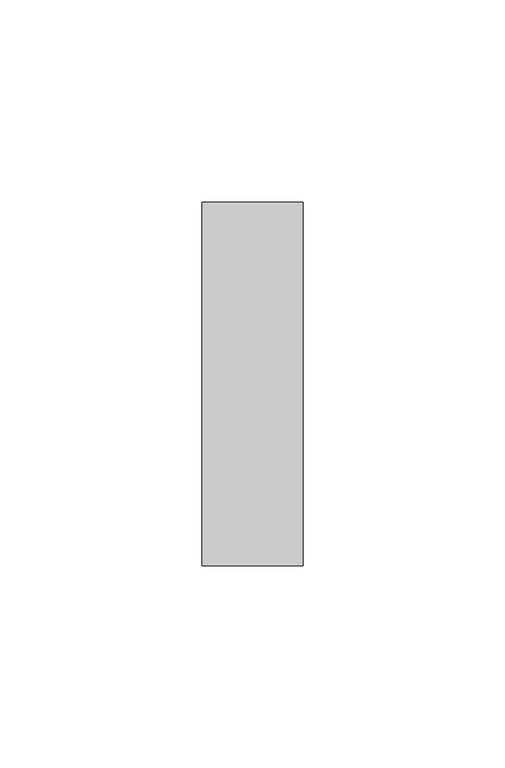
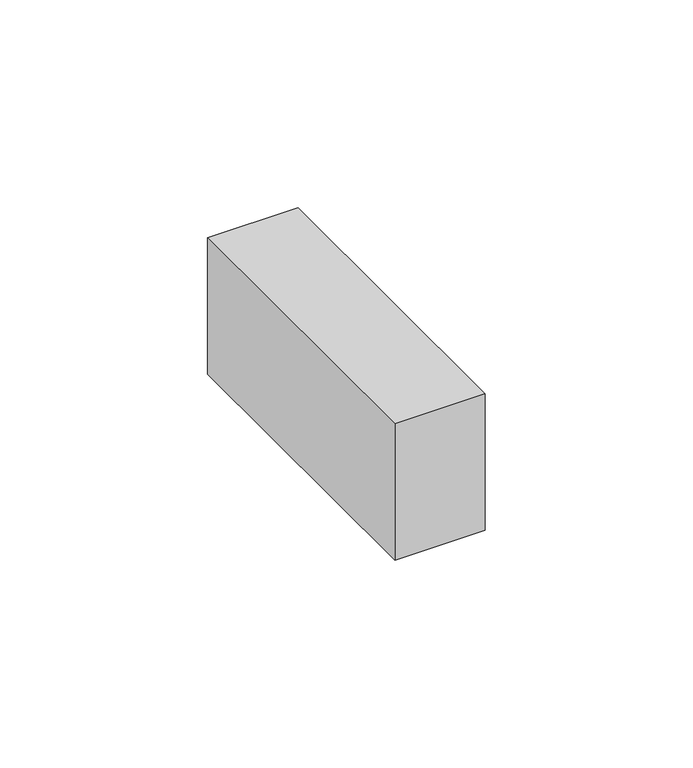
"""IFC4 building model written with IfcOpenShell, lengths in millimetres: duct fitting geometry, КНС_Заглушка_DKC : Стандартное."""

from ifc_helpers import new_model, si_unit, frame, origin, place, context, project, spatial, polyline, outline, extrude, source, transform, mapped, element, save


def duct_fitting_7fd099f2(model_context):
    return source(origin(), model_context, "Body", "SweptSolid", [
        extrude(outline(polyline([(0.0, -45.0), (0.0, 45.0), (25.0, 45.0), (25.0, -45.0), (0.0, -45.0)])), frame((0.0, 0.0, -20.0), z_axis=(0.0, 0.0, 1.0), x_axis=(1.0, 0.0, 0.0)), (0.0, 0.0, 1.0), 40.0),
    ])


if __name__ == "__main__":
    model = new_model("IFC4")
    model_context = context("Model", 3, world=origin())
    ifc_project = project(units=[si_unit("LENGTHUNIT", "METRE", prefix="MILLI")], contexts=[model_context])
    site = spatial("IfcSite", under=ifc_project)
    building = spatial("IfcBuilding", under=site)
    placement = place(None, origin())
    duct_fitting_shape = duct_fitting_7fd099f2(model_context)
    element("IfcDuctFitting", 1, ObjectType="КНС_Заглушка_DKC : Стандартное", at=placement, inside=building, context=model_context, shape_type="MappedRepresentation", body=[
        mapped(duct_fitting_shape, transform((0.0, 0.0, 0.0), x_axis=(1.0, 0.0, 0.0), y_axis=(0.0, 1.0, 0.0), z_axis=(0.0, 0.0, 1.0))),
    ])
    save(model, "model.ifc")
